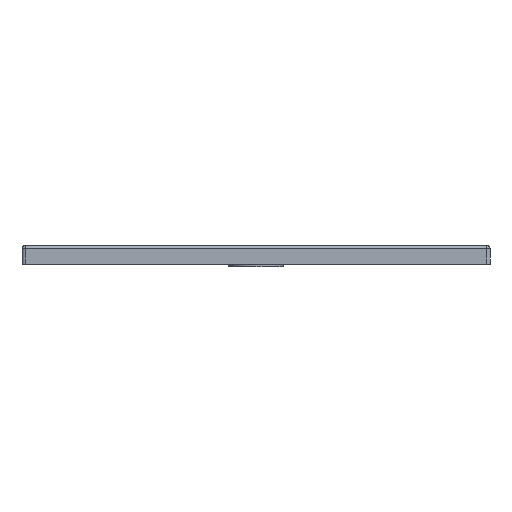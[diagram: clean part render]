
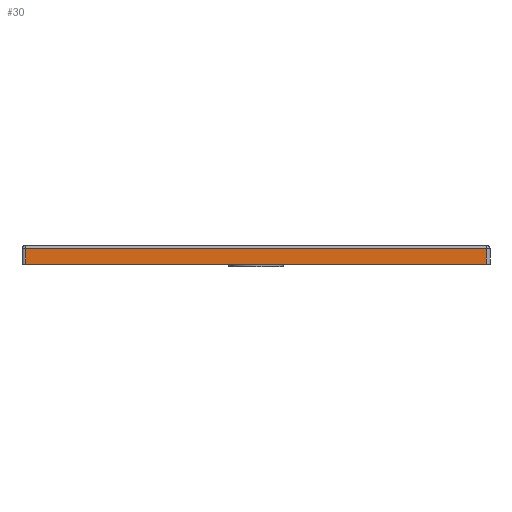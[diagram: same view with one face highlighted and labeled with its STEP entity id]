
A CAD part, left-side view. The second image highlights one B-rep face of the part: STEP entity #30.
In plain terms, the highlighted free-form (B-spline) face has degree [1, 1] with [2, 2] control points.
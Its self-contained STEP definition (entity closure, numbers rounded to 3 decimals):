
#30=ADVANCED_FACE('',(#71),#1188,.T.);
#71=FACE_OUTER_BOUND('',#112,.T.);
#112=EDGE_LOOP('',(#166,#167,#168,#169));
#166=ORIENTED_EDGE('',*,*,#822,.T.);
#167=ORIENTED_EDGE('',*,*,#823,.T.);
#168=ORIENTED_EDGE('',*,*,#819,.F.);
#169=ORIENTED_EDGE('',*,*,#824,.T.);
#389=PCURVE('',#1160,#559);
#392=PCURVE('',#1188,#562);
#393=PCURVE('',#1188,#563);
#394=PCURVE('',#1188,#564);
#395=PCURVE('',#1188,#565);
#424=PCURVE('',#1166,#594);
#438=PCURVE('',#1170,#608);
#559=DEFINITIONAL_REPRESENTATION('',(#916),#6699);
#562=DEFINITIONAL_REPRESENTATION('',(#921),#6699);
#563=DEFINITIONAL_REPRESENTATION('',(#923),#6699);
#564=DEFINITIONAL_REPRESENTATION('',(#924),#6699);
#565=DEFINITIONAL_REPRESENTATION('',(#926),#6699);
#594=DEFINITIONAL_REPRESENTATION('',(#967),#6699);
#608=DEFINITIONAL_REPRESENTATION('',(#981),#6699);
#729=SURFACE_CURVE('',#915,(#389,#394),.PCURVE_S1.);
#732=SURFACE_CURVE('',#920,(#392,#438),.PCURVE_S1.);
#733=SURFACE_CURVE('',#922,(#393),.PCURVE_S1.);
#734=SURFACE_CURVE('',#925,(#395,#424),.PCURVE_S1.);
#819=EDGE_CURVE('',#1115,#1113,#729,.T.);
#822=EDGE_CURVE('',#1117,#1116,#732,.T.);
#823=EDGE_CURVE('',#1116,#1113,#733,.T.);
#824=EDGE_CURVE('',#1115,#1117,#734,.T.);
#915=B_SPLINE_CURVE_WITH_KNOTS('',1,(#5529,#5530),.UNSPECIFIED.,.F.,.F.,
(2,2),(-33.,0.),.UNSPECIFIED.);
#916=B_SPLINE_CURVE_WITH_KNOTS('',1,(#5531,#5532),.UNSPECIFIED.,.F.,.F.,
(2,2),(-33.,0.),.UNSPECIFIED.);
#920=B_SPLINE_CURVE_WITH_KNOTS('',1,(#5542,#5543),.UNSPECIFIED.,.F.,.F.,
(2,2),(0.,33.),.UNSPECIFIED.);
#921=B_SPLINE_CURVE_WITH_KNOTS('',1,(#5544,#5545),.UNSPECIFIED.,.F.,.F.,
(2,2),(0.,33.),.UNSPECIFIED.);
#922=B_SPLINE_CURVE_WITH_KNOTS('',1,(#5546,#5547),.UNSPECIFIED.,.F.,.F.,
(2,2),(0.,986.),.UNSPECIFIED.);
#923=B_SPLINE_CURVE_WITH_KNOTS('',1,(#5548,#5549),.UNSPECIFIED.,.F.,.F.,
(2,2),(0.,986.),.UNSPECIFIED.);
#924=B_SPLINE_CURVE_WITH_KNOTS('',1,(#5550,#5551),.UNSPECIFIED.,.F.,.F.,
(2,2),(-33.,0.),.UNSPECIFIED.);
#925=B_SPLINE_CURVE_WITH_KNOTS('',1,(#5552,#5553),.UNSPECIFIED.,.F.,.F.,
(2,2),(0.,986.),.UNSPECIFIED.);
#926=B_SPLINE_CURVE_WITH_KNOTS('',1,(#5554,#5555),.UNSPECIFIED.,.F.,.F.,
(2,2),(0.,986.),.UNSPECIFIED.);
#967=B_SPLINE_CURVE_WITH_KNOTS('',1,(#5663,#5664),.UNSPECIFIED.,.F.,.F.,
(2,2),(0.,986.),.UNSPECIFIED.);
#981=B_SPLINE_CURVE_WITH_KNOTS('',1,(#5700,#5701),.UNSPECIFIED.,.F.,.F.,
(2,2),(0.,33.),.UNSPECIFIED.);
#1113=VERTEX_POINT('',#5398);
#1115=VERTEX_POINT('',#5400);
#1116=VERTEX_POINT('',#5401);
#1117=VERTEX_POINT('',#5402);
#1160=(
BOUNDED_SURFACE()
B_SPLINE_SURFACE(2,1,((#1409,#1410),(#1411,#1412),(#1413,#1414),(#1415,
#1416),(#1417,#1418),(#1419,#1420),(#1421,#1422),(#1423,#1424),(#1425,#1426)),
 .UNSPECIFIED.,.T.,.F.,.F.)
B_SPLINE_SURFACE_WITH_KNOTS((3,2,2,2,3),(2,2),(0.,1.571,3.142,
4.712,6.283),(0.,39.72),.UNSPECIFIED.)
GEOMETRIC_REPRESENTATION_ITEM()
RATIONAL_B_SPLINE_SURFACE(((1.,1.),(0.707,0.707),
(1.,1.),(0.707,0.707),(1.,1.),(0.707,
0.707),(1.,1.),(0.707,0.707),(1.,1.)))
REPRESENTATION_ITEM('')
SURFACE()
);
#1166=(
BOUNDED_SURFACE()
B_SPLINE_SURFACE(2,1,((#1583,#1584),(#1585,#1586),(#1587,#1588),(#1589,
#1590),(#1591,#1592),(#1593,#1594),(#1595,#1596),(#1597,#1598),(#1599,#1600)),
 .UNSPECIFIED.,.T.,.F.,.F.)
B_SPLINE_SURFACE_WITH_KNOTS((3,2,2,2,3),(2,2),(0.,1.571,3.142,
4.712,6.283),(0.,1183.32),.UNSPECIFIED.)
GEOMETRIC_REPRESENTATION_ITEM()
RATIONAL_B_SPLINE_SURFACE(((1.,1.),(0.707,0.707),
(1.,1.),(0.707,0.707),(1.,1.),(0.707,
0.707),(1.,1.),(0.707,0.707),(1.,1.)))
REPRESENTATION_ITEM('')
SURFACE()
);
#1170=(
BOUNDED_SURFACE()
B_SPLINE_SURFACE(2,1,((#1709,#1710),(#1711,#1712),(#1713,#1714),(#1715,
#1716),(#1717,#1718),(#1719,#1720),(#1721,#1722),(#1723,#1724),(#1725,#1726)),
 .UNSPECIFIED.,.T.,.F.,.F.)
B_SPLINE_SURFACE_WITH_KNOTS((3,2,2,2,3),(2,2),(0.,1.571,3.142,
4.712,6.283),(0.,39.72),.UNSPECIFIED.)
GEOMETRIC_REPRESENTATION_ITEM()
RATIONAL_B_SPLINE_SURFACE(((1.,1.),(0.707,0.707),
(1.,1.),(0.707,0.707),(1.,1.),(0.707,
0.707),(1.,1.),(0.707,0.707),(1.,1.)))
REPRESENTATION_ITEM('')
SURFACE()
);
#1188=B_SPLINE_SURFACE_WITH_KNOTS('',1,1,((#1427,#1428),(#1429,#1430)),
 .UNSPECIFIED.,.F.,.F.,.F.,(2,2),(2,2),(3.64,43.36),(-91.66,1091.66),
 .UNSPECIFIED.);
#1409=CARTESIAN_POINT('',(-486.,-493.,-43.36));
#1410=CARTESIAN_POINT('',(-486.,-493.,-3.64));
#1411=CARTESIAN_POINT('',(-486.,-486.,-43.36));
#1412=CARTESIAN_POINT('',(-486.,-486.,-3.64));
#1413=CARTESIAN_POINT('',(-493.,-486.,-43.36));
#1414=CARTESIAN_POINT('',(-493.,-486.,-3.64));
#1415=CARTESIAN_POINT('',(-500.,-486.,-43.36));
#1416=CARTESIAN_POINT('',(-500.,-486.,-3.64));
#1417=CARTESIAN_POINT('',(-500.,-493.,-43.36));
#1418=CARTESIAN_POINT('',(-500.,-493.,-3.64));
#1419=CARTESIAN_POINT('',(-500.,-500.,-43.36));
#1420=CARTESIAN_POINT('',(-500.,-500.,-3.64));
#1421=CARTESIAN_POINT('',(-493.,-500.,-43.36));
#1422=CARTESIAN_POINT('',(-493.,-500.,-3.64));
#1423=CARTESIAN_POINT('',(-486.,-500.,-43.36));
#1424=CARTESIAN_POINT('',(-486.,-500.,-3.64));
#1425=CARTESIAN_POINT('',(-486.,-493.,-43.36));
#1426=CARTESIAN_POINT('',(-486.,-493.,-3.64));
#1427=CARTESIAN_POINT('',(-500.,591.66,-3.64));
#1428=CARTESIAN_POINT('',(-500.,-591.66,-3.64));
#1429=CARTESIAN_POINT('',(-500.,591.66,-43.36));
#1430=CARTESIAN_POINT('',(-500.,-591.66,-43.36));
#1583=CARTESIAN_POINT('',(-486.,591.66,-7.));
#1584=CARTESIAN_POINT('',(-486.,-591.66,-7.));
#1585=CARTESIAN_POINT('',(-486.,591.66,0.));
#1586=CARTESIAN_POINT('',(-486.,-591.66,0.));
#1587=CARTESIAN_POINT('',(-493.,591.66,0.));
#1588=CARTESIAN_POINT('',(-493.,-591.66,0.));
#1589=CARTESIAN_POINT('',(-500.,591.66,0.));
#1590=CARTESIAN_POINT('',(-500.,-591.66,0.));
#1591=CARTESIAN_POINT('',(-500.,591.66,-7.));
#1592=CARTESIAN_POINT('',(-500.,-591.66,-7.));
#1593=CARTESIAN_POINT('',(-500.,591.66,-14.));
#1594=CARTESIAN_POINT('',(-500.,-591.66,-14.));
#1595=CARTESIAN_POINT('',(-493.,591.66,-14.));
#1596=CARTESIAN_POINT('',(-493.,-591.66,-14.));
#1597=CARTESIAN_POINT('',(-486.,591.66,-14.));
#1598=CARTESIAN_POINT('',(-486.,-591.66,-14.));
#1599=CARTESIAN_POINT('',(-486.,591.66,-7.));
#1600=CARTESIAN_POINT('',(-486.,-591.66,-7.));
#1709=CARTESIAN_POINT('',(-486.,493.,-3.64));
#1710=CARTESIAN_POINT('',(-486.,493.,-43.36));
#1711=CARTESIAN_POINT('',(-486.,486.,-3.64));
#1712=CARTESIAN_POINT('',(-486.,486.,-43.36));
#1713=CARTESIAN_POINT('',(-493.,486.,-3.64));
#1714=CARTESIAN_POINT('',(-493.,486.,-43.36));
#1715=CARTESIAN_POINT('',(-500.,486.,-3.64));
#1716=CARTESIAN_POINT('',(-500.,486.,-43.36));
#1717=CARTESIAN_POINT('',(-500.,493.,-3.64));
#1718=CARTESIAN_POINT('',(-500.,493.,-43.36));
#1719=CARTESIAN_POINT('',(-500.,500.,-3.64));
#1720=CARTESIAN_POINT('',(-500.,500.,-43.36));
#1721=CARTESIAN_POINT('',(-493.,500.,-3.64));
#1722=CARTESIAN_POINT('',(-493.,500.,-43.36));
#1723=CARTESIAN_POINT('',(-486.,500.,-3.64));
#1724=CARTESIAN_POINT('',(-486.,500.,-43.36));
#1725=CARTESIAN_POINT('',(-486.,493.,-3.64));
#1726=CARTESIAN_POINT('',(-486.,493.,-43.36));
#5398=CARTESIAN_POINT('',(-500.,-493.,-40.));
#5400=CARTESIAN_POINT('',(-500.,-493.,-7.));
#5401=CARTESIAN_POINT('',(-500.,493.,-40.));
#5402=CARTESIAN_POINT('',(-500.,493.,-7.));
#5529=CARTESIAN_POINT('',(-500.,-493.,-7.));
#5530=CARTESIAN_POINT('',(-500.,-493.,-40.));
#5531=CARTESIAN_POINT('',(3.142,36.36));
#5532=CARTESIAN_POINT('',(3.142,3.36));
#5542=CARTESIAN_POINT('',(-500.,493.,-7.));
#5543=CARTESIAN_POINT('',(-500.,493.,-40.));
#5544=CARTESIAN_POINT('',(7.,7.));
#5545=CARTESIAN_POINT('',(40.,7.));
#5546=CARTESIAN_POINT('',(-500.,493.,-40.));
#5547=CARTESIAN_POINT('',(-500.,-493.,-40.));
#5548=CARTESIAN_POINT('',(40.,7.));
#5549=CARTESIAN_POINT('',(40.,993.));
#5550=CARTESIAN_POINT('',(7.,993.));
#5551=CARTESIAN_POINT('',(40.,993.));
#5552=CARTESIAN_POINT('',(-500.,-493.,-7.));
#5553=CARTESIAN_POINT('',(-500.,493.,-7.));
#5554=CARTESIAN_POINT('',(7.,993.));
#5555=CARTESIAN_POINT('',(7.,7.));
#5663=CARTESIAN_POINT('',(3.142,1084.66));
#5664=CARTESIAN_POINT('',(3.142,98.66));
#5700=CARTESIAN_POINT('',(3.142,3.36));
#5701=CARTESIAN_POINT('',(3.142,36.36));
#6699=(
GEOMETRIC_REPRESENTATION_CONTEXT(2)
PARAMETRIC_REPRESENTATION_CONTEXT()
REPRESENTATION_CONTEXT('pspace','')
);
